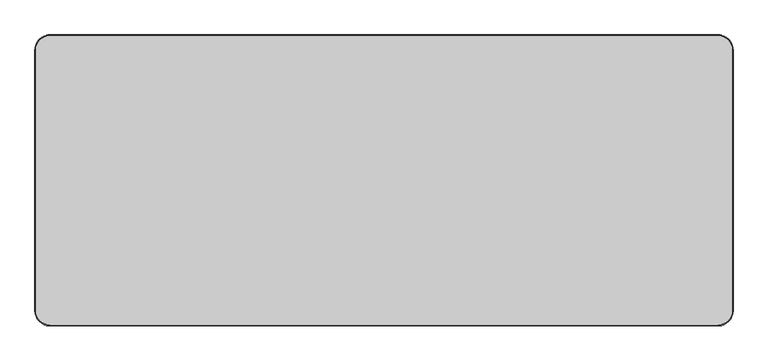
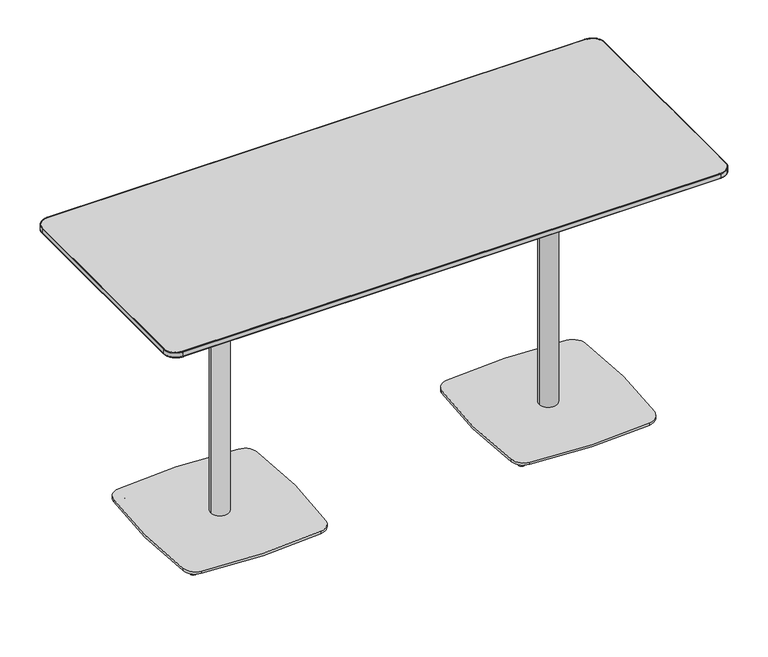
"""IFC4 building model written with IfcOpenShell, lengths in millimetres: furniture geometry, Coalesse_AM_Table_Occasional_Montara650Table_CafeHeight_Rectangular : Counter Height - 30D x 72W."""

from ifc_helpers import new_model, si_unit, point, frame, frame_2d, origin, place, context, project, spatial, polyline, circle_curve, ellipse_curve, trimmed, segment, composite_curve, outline, extrude, source, transform, mapped, element, save
from ifc_brep_helpers import plane_surface, cylinder_surface, revolved_surface, spline_surface, advanced_brep


def furniture_965f53b5(model_context):
    return source(origin(), model_context, "Body", "SolidModel", [
        advanced_brep(
        [(357.2373868, 0.0, 881.255027), (709.5626132, 0.0, 881.255027), (665.0004101, 0.0, 881.255027), (401.7995899, 0.0, 881.255027), (654.4488662, 0.0, 880.1460151), (412.3511338, 0.0, 880.1460151), (582.1461809, 0.0, 865.4837029), (484.6538191, 0.0, 865.4837029), (570.812985, 0.0, 865.4837029), (495.987015, 0.0, 865.4837029), (503.8504172, 0.0, 877.2852036), (562.9495828, 0.0, 877.2852036), (562.9495828, 0.0, 19.9999965), (503.8504172, 0.0, 19.9999965), (533.4, 0.0, 19.9999965), (533.4, 0.0, 884.430027), (709.5626132, 0.0, 884.430027), (357.2373868, 0.0, 884.430027), (566.7511087, 0.0, 866.9383874), (500.0488913, 0.0, 866.9383874), (565.112334, 0.0, 877.2852036), (501.687666, 0.0, 877.2852036)],
        [
            (0, 1, circle_curve(frame((533.4, 0.0, 881.255027), z_axis=(0.0, 0.0, -1.0), x_axis=(1.0, 0.0, 0.0)), 176.1626132)),
            (1, 2),
            (2, 3, circle_curve(frame((533.4, 0.0, 881.255027), z_axis=(0.0, 0.0, 1.0), x_axis=(1.0, 0.0, 0.0)), 131.6004101)),
            (3, 0),
            (1, 0, circle_curve(frame((533.4, 0.0, 881.255027), z_axis=(0.0, 0.0, -1.0), x_axis=(1.0, 0.0, 0.0)), 176.1626132)),
            (3, 2, circle_curve(frame((533.4, 0.0, 881.255027), z_axis=(0.0, 0.0, 1.0), x_axis=(1.0, 0.0, 0.0)), 131.6004101)),
            (2, 4),
            (4, 5, circle_curve(frame((533.4, 0.0, 880.1460151), z_axis=(0.0, 0.0, 1.0), x_axis=(1.0, 0.0, 0.0)), 121.0488662)),
            (5, 3),
            (5, 4, circle_curve(frame((533.4, 0.0, 880.1460151), z_axis=(0.0, 0.0, 1.0), x_axis=(1.0, 0.0, 0.0)), 121.0488662)),
            (4, 6),
            (6, 7, circle_curve(frame((533.4, 0.0, 865.4837029), z_axis=(0.0, 0.0, 1.0), x_axis=(1.0, 0.0, 0.0)), 48.7461809)),
            (7, 5),
            (7, 6, circle_curve(frame((533.4, 0.0, 865.4837029), z_axis=(0.0, 0.0, 1.0), x_axis=(1.0, 0.0, 0.0)), 48.7461809)),
            (6, 8),
            (8, 9, circle_curve(frame((533.4, 0.0, 865.4837029), z_axis=(0.0, 0.0, 1.0), x_axis=(1.0, 0.0, 0.0)), 37.412985)),
            (9, 7),
            (9, 8, circle_curve(frame((533.4, 0.0, 865.4837029), z_axis=(0.0, 0.0, 1.0), x_axis=(1.0, 0.0, 0.0)), 37.412985)),
            (10, 11, circle_curve(frame((533.4, 0.0, 877.2852036), z_axis=(0.0, 0.0, -1.0), x_axis=(1.0, 0.0, 0.0)), 29.5495828)),
            (11, 12),
            (12, 13, circle_curve(frame((533.4, 0.0, 19.9999965), z_axis=(0.0, 0.0, 1.0), x_axis=(1.0, 0.0, 0.0)), 29.5495828)),
            (13, 10),
            (11, 10, circle_curve(frame((533.4, 0.0, 877.2852036), z_axis=(0.0, 0.0, -1.0), x_axis=(1.0, 0.0, 0.0)), 29.5495828)),
            (13, 12, circle_curve(frame((533.4, 0.0, 19.9999965), z_axis=(0.0, 0.0, 1.0), x_axis=(1.0, 0.0, 0.0)), 29.5495828)),
            (12, 14),
            (14, 13),
            (15, 16),
            (16, 17, circle_curve(frame((533.4, 0.0, 884.430027), z_axis=(0.0, 0.0, 1.0), x_axis=(1.0, 0.0, 0.0)), 176.1626132)),
            (17, 15),
            (17, 16, circle_curve(frame((533.4, 0.0, 884.430027), z_axis=(0.0, 0.0, 1.0), x_axis=(1.0, 0.0, 0.0)), 176.1626132)),
            (16, 1),
            (0, 17),
            (8, 18),
            (18, 19, circle_curve(frame((533.4, 0.0, 866.9383874), z_axis=(0.0, 0.0, 1.0), x_axis=(1.0, 0.0, 0.0)), 33.3511087)),
            (19, 9),
            (19, 18, circle_curve(frame((533.4, 0.0, 866.9383874), z_axis=(0.0, 0.0, 1.0), x_axis=(1.0, 0.0, 0.0)), 33.3511087)),
            (18, 20),
            (20, 21, circle_curve(frame((533.4, 0.0, 877.2852036), z_axis=(0.0, 0.0, 1.0), x_axis=(1.0, 0.0, 0.0)), 31.712334)),
            (21, 19),
            (21, 20, circle_curve(frame((533.4, 0.0, 877.2852036), z_axis=(0.0, 0.0, 1.0), x_axis=(1.0, 0.0, 0.0)), 31.712334)),
            (20, 11),
            (10, 21),
        ],
        [
            plane_surface(frame((533.4, 0.0, 881.255027), z_axis=(0.0, 0.0, -1.0), x_axis=(1.0, 0.0, 0.0))),
            revolved_surface(polyline([(654.4488662, 0.0, 880.1460151), (665.0004101, 0.0, 881.255027)]), (533.4, 0.0, 756.5999965), (0.0, 0.0, 1.0)),
            revolved_surface(polyline([(582.1461809, 0.0, 865.4837029), (654.4488662, 0.0, 880.1460151)]), (533.4, 0.0, 756.5999965), (0.0, 0.0, 1.0)),
            plane_surface(frame((533.4, 0.0, 865.4837029), z_axis=(0.0, 0.0, -1.0), x_axis=(1.0, 0.0, 0.0))),
            cylinder_surface(frame((533.4, 0.0, 756.5999965), z_axis=(0.0, 0.0, 1.0), x_axis=(1.0, 0.0, 0.0)), 29.5495828),
            plane_surface(frame((533.4, 0.0, 19.9999965), z_axis=(0.0, 0.0, -1.0), x_axis=(1.0, 0.0, 0.0))),
            plane_surface(frame((533.4, 0.0, 884.430027), z_axis=(0.0, 0.0, 1.0), x_axis=(1.0, 0.0, 0.0))),
            cylinder_surface(frame((533.4, 0.0, 756.5999965), z_axis=(0.0, 0.0, 1.0), x_axis=(1.0, 0.0, 0.0)), 176.1626132),
            revolved_surface(polyline([(566.7511087, 0.0, 866.9383874), (570.812985, 0.0, 865.4837029)]), (533.4, 0.0, 756.5999965), (0.0, 0.0, 1.0)),
            revolved_surface(polyline([(565.112334, 0.0, 877.2852036), (566.7511087, 0.0, 866.9383874)]), (533.4, 0.0, 756.5999965), (0.0, 0.0, 1.0)),
            plane_surface(frame((533.4, 0.0, 877.2852036), z_axis=(0.0, 0.0, -1.0), x_axis=(1.0, 0.0, 0.0))),
        ],
        [
            (0, [[1, 2, 3, 4]]),
            (0, [[5, -4, 6, -2]]),
            (1, [[-3, 7, 8, 9]]),
            (1, [[-6, -9, 10, -7]]),
            (2, [[-8, 11, 12, 13]]),
            (2, [[-10, -13, 14, -11]]),
            (3, [[-12, 15, 16, 17]]),
            (3, [[-14, -17, 18, -15]]),
            (4, [[19, 20, 21, 22]]),
            (4, [[23, -22, 24, -20]]),
            (5, [[-21, 25, 26]]),
            (5, [[-24, -26, -25]]),
            (6, [[27, 28, 29]]),
            (6, [[-29, 30, -27]]),
            (7, [[-28, 31, -1, 32]]),
            (7, [[-30, -32, -5, -31]]),
            (8, [[-16, 33, 34, 35]]),
            (8, [[-18, -35, 36, -33]]),
            (9, [[-34, 37, 38, 39]]),
            (9, [[-36, -39, 40, -37]]),
            (10, [[-38, 41, -19, 42]]),
            (10, [[-40, -42, -23, -41]]),
        ],
    ),
        advanced_brep(
        [(749.0044343, 204.892028, 0.0), (728.3026873, 204.892028, 0.0), (753.1315608, 204.892028, 11.9999882), (724.1755608, 204.892028, 11.9999882)],
        [
            (0, 1, circle_curve(frame((738.6535608, 204.892028, 0.0), z_axis=(0.0, 0.0, -1.0), x_axis=(1.0, 0.0, 0.0)), 10.3508735)),
            (1, 0, circle_curve(frame((738.6535608, 204.892028, 0.0), z_axis=(0.0, 0.0, -1.0), x_axis=(-1.0, 0.0, 0.0)), 10.3508735)),
            (2, 3, circle_curve(frame((738.6535608, 204.892028, 11.9999882), z_axis=(0.0, 0.0, 1.0), x_axis=(-1.0, 0.0, 0.0)), 14.478)),
            (3, 2, circle_curve(frame((738.6535608, 204.892028, 11.9999882), z_axis=(0.0, 0.0, 1.0), x_axis=(1.0, 0.0, 0.0)), 14.478)),
            (3, 1),
            (0, 2),
        ],
        [
            plane_surface(frame((738.6535608, 204.892028, 0.0), z_axis=(0.0, 0.0, -1.0), x_axis=(0.0, 1.0, 0.0))),
            plane_surface(frame((738.6535608, 204.892028, 11.9999882), z_axis=(0.0, 0.0, 1.0), x_axis=(0.0, 1.0, 0.0))),
            revolved_surface(polyline([(749.0044342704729, 204.892028, 0.0), (753.1315608, 204.892028, 11.999988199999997)]), (738.6535608, 204.892028, -30.0960871), (0.0, 0.0, 1.0)),
            revolved_surface(polyline([(728.3026873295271, 204.892028, 0.0), (724.1755608, 204.892028, 11.999988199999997)]), (738.6535608, 204.892028, -30.0960871), (0.0, 0.0, 1.0)),
        ],
        [
            (0, [[1, 2]]),
            (1, [[3, 4]]),
            (2, [[-4, 5, -1, 6]]),
            (3, [[-3, -6, -2, -5]]),
        ],
    ),
        advanced_brep(
        [(749.0044343, -204.892028, 0.0), (728.3026873, -204.892028, 0.0), (753.1315608, -204.892028, 11.9999882), (724.1755608, -204.892028, 11.9999882)],
        [
            (0, 1, circle_curve(frame((738.6535608, -204.892028, 0.0), z_axis=(0.0, 0.0, -1.0), x_axis=(1.0, 0.0, 0.0)), 10.3508735)),
            (1, 0, circle_curve(frame((738.6535608, -204.892028, 0.0), z_axis=(0.0, 0.0, -1.0), x_axis=(-1.0, 0.0, 0.0)), 10.3508735)),
            (2, 3, circle_curve(frame((738.6535608, -204.892028, 11.9999882), z_axis=(0.0, 0.0, 1.0), x_axis=(-1.0, 0.0, 0.0)), 14.478)),
            (3, 2, circle_curve(frame((738.6535608, -204.892028, 11.9999882), z_axis=(0.0, 0.0, 1.0), x_axis=(1.0, 0.0, 0.0)), 14.478)),
            (2, 0),
            (1, 3),
        ],
        [
            plane_surface(frame((738.6535608, -204.892028, 0.0), z_axis=(0.0, 0.0, -1.0), x_axis=(0.0, 1.0, 0.0))),
            plane_surface(frame((738.6535608, -204.892028, 11.9999882), z_axis=(0.0, 0.0, 1.0), x_axis=(0.0, 1.0, 0.0))),
            revolved_surface(polyline([(728.3026873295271, -204.892028, 0.0), (724.1755608, -204.892028, 11.999988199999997)]), (738.6535608, -204.892028, -30.0960871), (0.0, 0.0, 1.0)),
            revolved_surface(polyline([(749.0044342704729, -204.892028, 0.0), (753.1315608, -204.892028, 11.999988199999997)]), (738.6535608, -204.892028, -30.0960871), (0.0, 0.0, 1.0)),
        ],
        [
            (0, [[1, 2]]),
            (1, [[3, 4]]),
            (2, [[-3, 5, -2, 6]]),
            (3, [[-4, -6, -1, -5]]),
        ],
    ),
        advanced_brep(
        [(317.7955657, 204.892028, 0.0), (338.4973127, 204.892028, 0.0), (313.6684392, 204.892028, 11.9999882), (342.6244392, 204.892028, 11.9999882)],
        [
            (0, 1, circle_curve(frame((328.1464392, 204.892028, 0.0), z_axis=(0.0, 0.0, -1.0), x_axis=(-1.0, 0.0, 0.0)), 10.3508735)),
            (1, 0, circle_curve(frame((328.1464392, 204.892028, 0.0), z_axis=(0.0, 0.0, -1.0), x_axis=(1.0, 0.0, 0.0)), 10.3508735)),
            (2, 3, circle_curve(frame((328.1464392, 204.892028, 11.9999882), z_axis=(0.0, 0.0, 1.0), x_axis=(1.0, 0.0, 0.0)), 14.478)),
            (3, 2, circle_curve(frame((328.1464392, 204.892028, 11.9999882), z_axis=(0.0, 0.0, 1.0), x_axis=(-1.0, 0.0, 0.0)), 14.478)),
            (2, 0),
            (1, 3),
        ],
        [
            plane_surface(frame((328.1464392, 204.892028, 0.0), z_axis=(0.0, 0.0, -1.0), x_axis=(0.0, -1.0, 0.0))),
            plane_surface(frame((328.1464392, 204.892028, 11.9999882), z_axis=(0.0, 0.0, 1.0), x_axis=(0.0, -1.0, 0.0))),
            revolved_surface(polyline([(338.49731267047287, 204.892028, 0.0), (342.6244392, 204.892028, 11.999988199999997)]), (328.1464392, 204.892028, -30.0960871), (0.0, 0.0, 1.0)),
            revolved_surface(polyline([(317.7955657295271, 204.892028, 0.0), (313.6684392, 204.892028, 11.999988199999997)]), (328.1464392, 204.892028, -30.0960871), (0.0, 0.0, 1.0)),
        ],
        [
            (0, [[1, 2]]),
            (1, [[3, 4]]),
            (2, [[-3, 5, -2, 6]]),
            (3, [[-4, -6, -1, -5]]),
        ],
    ),
        advanced_brep(
        [(317.7955657, -204.892028, 0.0), (338.4973127, -204.892028, 0.0), (313.6684392, -204.892028, 11.9999882), (342.6244392, -204.892028, 11.9999882)],
        [
            (0, 1, circle_curve(frame((328.1464392, -204.892028, 0.0), z_axis=(0.0, 0.0, -1.0), x_axis=(-1.0, 0.0, 0.0)), 10.3508735)),
            (1, 0, circle_curve(frame((328.1464392, -204.892028, 0.0), z_axis=(0.0, 0.0, -1.0), x_axis=(1.0, 0.0, 0.0)), 10.3508735)),
            (2, 3, circle_curve(frame((328.1464392, -204.892028, 11.9999882), z_axis=(0.0, 0.0, 1.0), x_axis=(1.0, 0.0, 0.0)), 14.478)),
            (3, 2, circle_curve(frame((328.1464392, -204.892028, 11.9999882), z_axis=(0.0, 0.0, 1.0), x_axis=(-1.0, 0.0, 0.0)), 14.478)),
            (3, 1),
            (0, 2),
        ],
        [
            plane_surface(frame((328.1464392, -204.892028, 0.0), z_axis=(0.0, 0.0, -1.0), x_axis=(0.0, -1.0, 0.0))),
            plane_surface(frame((328.1464392, -204.892028, 11.9999882), z_axis=(0.0, 0.0, 1.0), x_axis=(0.0, -1.0, 0.0))),
            revolved_surface(polyline([(317.7955657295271, -204.892028, 0.0), (313.6684392, -204.892028, 11.999988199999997)]), (328.1464392, -204.892028, -30.0960871), (0.0, 0.0, 1.0)),
            revolved_surface(polyline([(338.49731267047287, -204.892028, 0.0), (342.6244392, -204.892028, 11.999988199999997)]), (328.1464392, -204.892028, -30.0960871), (0.0, 0.0, 1.0)),
        ],
        [
            (0, [[1, 2]]),
            (1, [[3, 4]]),
            (2, [[-4, 5, -1, 6]]),
            (3, [[-3, -6, -2, -5]]),
        ],
    ),
        extrude(outline(composite_curve([segment(trimmed(circle_curve(frame_2d((534.6702107, -1459.4269529)), 1703.8365498), [point((338.9758413, 233.1340363))], [point((727.7022914, 233.4397294))], False, "CARTESIAN"), True, "CONTINUOUS"), segment(trimmed(circle_curve(frame_2d((722.6664351, 189.2759133)), 44.45), [point((727.7022914, 233.4397294))], [point((766.8410299, 194.2163254))], False, "CARTESIAN"), True, "CONTINUOUS"), segment(trimmed(circle_curve(frame_2d((-969.7397991, 5.89e-05)), 1747.4074894), [point((766.8410299, 194.2163254))], [point((766.838325, -194.2403925))], False, "CARTESIAN"), True, "CONTINUOUS"), segment(trimmed(circle_curve(frame_2d((722.663799, -189.2993652)), 44.45), [point((766.838325, -194.2403925))], [point((727.977927, -233.4305622))], False, "CARTESIAN"), True, "CONTINUOUS"), segment(trimmed(circle_curve(frame_2d((537.7367152, 1346.4283112)), 1591.2717488), [point((727.977927, -233.4305622))], [point((339.4996689, -232.4471911))], False, "CARTESIAN"), True, "CONTINUOUS"), segment(trimmed(circle_curve(frame_2d((345.0371496, -188.3434633)), 44.45), [point((339.4996689, -232.4471911))], [point((300.9116252, -193.704489))], False, "CARTESIAN"), True, "CONTINUOUS"), segment(trimmed(circle_curve(frame_2d((1930.9488879, 4.3367087)), 1642.0236885), [point((300.9116252, -193.704489))], [point((299.9290283, 194.115557))], False, "CARTESIAN"), True, "CONTINUOUS"), segment(trimmed(circle_curve(frame_2d((344.0811518, 188.9781952)), 44.45), [point((299.9290283, 194.115557))], [point((338.9758413, 233.1340363))], False, "CARTESIAN"), True, "CONTINUOUS")], self_intersect=False)), frame((0.0, 0.0, 11.999986), z_axis=(0.0, 0.0, 1.0), x_axis=(1.0, 0.0, 0.0)), (0.0, 0.0, 1.0), 8.0000105),
        advanced_brep(
        [(-738.6535608, 215.2429015, 0.0), (-738.6535608, 194.5411546, 0.0), (-738.6535608, 219.370028, 11.9999882), (-738.6535608, 190.414028, 11.9999882)],
        [
            (0, 1, circle_curve(frame((-738.6535608, 204.892028, 0.0), z_axis=(0.0, 0.0, -1.0), x_axis=(0.0, 1.0, 0.0)), 10.3508735)),
            (1, 0, circle_curve(frame((-738.6535608, 204.892028, 0.0), z_axis=(0.0, 0.0, -1.0), x_axis=(0.0, -1.0, 0.0)), 10.3508735)),
            (2, 3, circle_curve(frame((-738.6535608, 204.892028, 11.9999882), z_axis=(0.0, 0.0, 1.0), x_axis=(0.0, -1.0, 0.0)), 14.478)),
            (3, 2, circle_curve(frame((-738.6535608, 204.892028, 11.9999882), z_axis=(0.0, 0.0, 1.0), x_axis=(0.0, 1.0, 0.0)), 14.478)),
            (2, 0),
            (1, 3),
        ],
        [
            plane_surface(frame((-738.6535608, 204.892028, 0.0), z_axis=(0.0, 0.0, -1.0), x_axis=(-1.0, 0.0, 0.0))),
            plane_surface(frame((-738.6535608, 204.892028, 11.9999882), z_axis=(0.0, 0.0, 1.0), x_axis=(-1.0, 0.0, 0.0))),
            revolved_surface(polyline([(-738.6535608, 194.5411545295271, 0.0), (-738.6535608, 190.414028, 11.999988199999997)]), (-738.6535608, 204.892028, -30.0960871), (0.0, 0.0, 1.0)),
            revolved_surface(polyline([(-738.6535608, 215.2429014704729, 0.0), (-738.6535608, 219.370028, 11.999988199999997)]), (-738.6535608, 204.892028, -30.0960871), (0.0, 0.0, 1.0)),
        ],
        [
            (0, [[1, 2]]),
            (1, [[3, 4]]),
            (2, [[-3, 5, -2, 6]]),
            (3, [[-4, -6, -1, -5]]),
        ],
    ),
        advanced_brep(
        [(-738.6535608, -194.5411546, 0.0), (-738.6535608, -215.2429015, 0.0), (-738.6535608, -190.414028, 11.9999882), (-738.6535608, -219.370028, 11.9999882)],
        [
            (0, 1, circle_curve(frame((-738.6535608, -204.892028, 0.0), z_axis=(0.0, 0.0, -1.0), x_axis=(0.0, 1.0, 0.0)), 10.3508735)),
            (1, 0, circle_curve(frame((-738.6535608, -204.892028, 0.0), z_axis=(0.0, 0.0, -1.0), x_axis=(0.0, -1.0, 0.0)), 10.3508735)),
            (2, 3, circle_curve(frame((-738.6535608, -204.892028, 11.9999882), z_axis=(0.0, 0.0, 1.0), x_axis=(0.0, -1.0, 0.0)), 14.478)),
            (3, 2, circle_curve(frame((-738.6535608, -204.892028, 11.9999882), z_axis=(0.0, 0.0, 1.0), x_axis=(0.0, 1.0, 0.0)), 14.478)),
            (3, 1),
            (0, 2),
        ],
        [
            plane_surface(frame((-738.6535608, -204.892028, 0.0), z_axis=(0.0, 0.0, -1.0), x_axis=(-1.0, 0.0, 0.0))),
            plane_surface(frame((-738.6535608, -204.892028, 11.9999882), z_axis=(0.0, 0.0, 1.0), x_axis=(-1.0, 0.0, 0.0))),
            revolved_surface(polyline([(-738.6535608, -194.5411545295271, 0.0), (-738.6535608, -190.414028, 11.999988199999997)]), (-738.6535608, -204.892028, -30.0960871), (0.0, 0.0, 1.0)),
            revolved_surface(polyline([(-738.6535608, -215.2429014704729, 0.0), (-738.6535608, -219.370028, 11.999988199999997)]), (-738.6535608, -204.892028, -30.0960871), (0.0, 0.0, 1.0)),
        ],
        [
            (0, [[1, 2]]),
            (1, [[3, 4]]),
            (2, [[-4, 5, -1, 6]]),
            (3, [[-3, -6, -2, -5]]),
        ],
    ),
        advanced_brep(
        [(-328.1464392, 194.5411546, 0.0), (-328.1464392, 215.2429015, 0.0), (-328.1464392, 190.414028, 11.9999882), (-328.1464392, 219.370028, 11.9999882)],
        [
            (0, 1, circle_curve(frame((-328.1464392, 204.892028, 0.0), z_axis=(0.0, 0.0, -1.0), x_axis=(0.0, -1.0, 0.0)), 10.3508735)),
            (1, 0, circle_curve(frame((-328.1464392, 204.892028, 0.0), z_axis=(0.0, 0.0, -1.0), x_axis=(0.0, 1.0, 0.0)), 10.3508735)),
            (2, 3, circle_curve(frame((-328.1464392, 204.892028, 11.9999882), z_axis=(0.0, 0.0, 1.0), x_axis=(0.0, 1.0, 0.0)), 14.478)),
            (3, 2, circle_curve(frame((-328.1464392, 204.892028, 11.9999882), z_axis=(0.0, 0.0, 1.0), x_axis=(0.0, -1.0, 0.0)), 14.478)),
            (3, 1),
            (0, 2),
        ],
        [
            plane_surface(frame((-328.1464392, 204.892028, 0.0), z_axis=(0.0, 0.0, -1.0), x_axis=(1.0, 0.0, 0.0))),
            plane_surface(frame((-328.1464392, 204.892028, 11.9999882), z_axis=(0.0, 0.0, 1.0), x_axis=(1.0, 0.0, 0.0))),
            revolved_surface(polyline([(-328.1464392, 194.5411545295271, 0.0), (-328.1464392, 190.414028, 11.999988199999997)]), (-328.1464392, 204.892028, -30.0960871), (0.0, 0.0, 1.0)),
            revolved_surface(polyline([(-328.1464392, 215.2429014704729, 0.0), (-328.1464392, 219.370028, 11.999988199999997)]), (-328.1464392, 204.892028, -30.0960871), (0.0, 0.0, 1.0)),
        ],
        [
            (0, [[1, 2]]),
            (1, [[3, 4]]),
            (2, [[-4, 5, -1, 6]]),
            (3, [[-3, -6, -2, -5]]),
        ],
    ),
        advanced_brep(
        [(-328.1464392, -215.2429015, 0.0), (-328.1464392, -194.5411546, 0.0), (-328.1464392, -219.370028, 11.9999882), (-328.1464392, -190.414028, 11.9999882)],
        [
            (0, 1, circle_curve(frame((-328.1464392, -204.892028, 0.0), z_axis=(0.0, 0.0, -1.0), x_axis=(0.0, -1.0, 0.0)), 10.3508735)),
            (1, 0, circle_curve(frame((-328.1464392, -204.892028, 0.0), z_axis=(0.0, 0.0, -1.0), x_axis=(0.0, 1.0, 0.0)), 10.3508735)),
            (2, 3, circle_curve(frame((-328.1464392, -204.892028, 11.9999882), z_axis=(0.0, 0.0, 1.0), x_axis=(0.0, 1.0, 0.0)), 14.478)),
            (3, 2, circle_curve(frame((-328.1464392, -204.892028, 11.9999882), z_axis=(0.0, 0.0, 1.0), x_axis=(0.0, -1.0, 0.0)), 14.478)),
            (2, 0),
            (1, 3),
        ],
        [
            plane_surface(frame((-328.1464392, -204.892028, 0.0), z_axis=(0.0, 0.0, -1.0), x_axis=(1.0, 0.0, 0.0))),
            plane_surface(frame((-328.1464392, -204.892028, 11.9999882), z_axis=(0.0, 0.0, 1.0), x_axis=(1.0, 0.0, 0.0))),
            revolved_surface(polyline([(-328.1464392, -194.5411545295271, 0.0), (-328.1464392, -190.414028, 11.999988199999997)]), (-328.1464392, -204.892028, -30.0960871), (0.0, 0.0, 1.0)),
            revolved_surface(polyline([(-328.1464392, -215.2429014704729, 0.0), (-328.1464392, -219.370028, 11.999988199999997)]), (-328.1464392, -204.892028, -30.0960871), (0.0, 0.0, 1.0)),
        ],
        [
            (0, [[1, 2]]),
            (1, [[3, 4]]),
            (2, [[-3, 5, -2, 6]]),
            (3, [[-4, -6, -1, -5]]),
        ],
    ),
        extrude(outline(composite_curve([segment(trimmed(circle_curve(frame_2d((-344.0811518, 188.9781952)), 44.45), [point((-338.9758413, 233.1340363))], [point((-299.9290283, 194.115557))], False, "CARTESIAN"), True, "CONTINUOUS"), segment(trimmed(circle_curve(frame_2d((-1930.9488879, 4.3367087)), 1642.0236885), [point((-299.9290283, 194.115557))], [point((-300.9116252, -193.704489))], False, "CARTESIAN"), True, "CONTINUOUS"), segment(trimmed(circle_curve(frame_2d((-345.0371496, -188.3434633)), 44.45), [point((-300.9116252, -193.704489))], [point((-339.4996689, -232.4471911))], False, "CARTESIAN"), True, "CONTINUOUS"), segment(trimmed(circle_curve(frame_2d((-537.7367152, 1346.4283112)), 1591.2717488), [point((-339.4996689, -232.4471911))], [point((-727.977927, -233.4305622))], False, "CARTESIAN"), True, "CONTINUOUS"), segment(trimmed(circle_curve(frame_2d((-722.663799, -189.2993652)), 44.45), [point((-727.977927, -233.4305622))], [point((-766.838325, -194.2403925))], False, "CARTESIAN"), True, "CONTINUOUS"), segment(trimmed(circle_curve(frame_2d((969.7397991, 5.89e-05)), 1747.4074894), [point((-766.838325, -194.2403925))], [point((-766.8410299, 194.2163254))], False, "CARTESIAN"), True, "CONTINUOUS"), segment(trimmed(circle_curve(frame_2d((-722.6664351, 189.2759133)), 44.45), [point((-766.8410299, 194.2163254))], [point((-727.7022914, 233.4397294))], False, "CARTESIAN"), True, "CONTINUOUS"), segment(trimmed(circle_curve(frame_2d((-534.6702107, -1459.4269529)), 1703.8365498), [point((-727.7022914, 233.4397294))], [point((-338.9758413, 233.1340363))], False, "CARTESIAN"), True, "CONTINUOUS")], self_intersect=False)), frame((0.0, 0.0, 11.999986), z_axis=(0.0, 0.0, 1.0), x_axis=(1.0, 0.0, 0.0)), (0.0, 0.0, 1.0), 8.0000105),
        advanced_brep(
        [(849.4626362, 316.0635082, 884.430027), (849.4626362, -316.0635082, 884.430027), (-849.4626362, -316.0635082, 884.430027), (-849.4626362, 316.0635082, 884.430027), (874.188625, 378.968, 896.695891), (-874.188625, 378.968, 896.695891), (-912.288625, 340.868, 896.695891), (-912.288625, -340.868, 896.695891), (-874.188625, -378.968, 896.695891), (874.188625, -378.968, 896.695891), (912.288625, -340.868, 896.695891), (912.288625, 340.868, 896.695891)],
        [
            (0, 1),
            (1, 2),
            (2, 3),
            (3, 0),
            (4, 5),
            (5, 6, circle_curve(frame((-874.188625, 340.868, 896.695891), z_axis=(0.0, 0.0, 1.0), x_axis=(1.0, 0.0, 0.0)), 38.1)),
            (6, 7),
            (7, 8, circle_curve(frame((-874.188625, -340.868, 896.695891), z_axis=(0.0, 0.0, 1.0), x_axis=(1.0, 0.0, 0.0)), 38.1)),
            (8, 9),
            (9, 10, circle_curve(frame((874.188625, -340.868, 896.695891), z_axis=(0.0, 0.0, 1.0), x_axis=(1.0, 0.0, 0.0)), 38.1)),
            (10, 11),
            (11, 4, circle_curve(frame((874.188625, 340.868, 896.695891), z_axis=(0.0, 0.0, 1.0), x_axis=(1.0, 0.0, 0.0)), 38.1)),
            (11, 0),
            (0, 4),
            (10, 1),
            (9, 1),
            (8, 2),
            (7, 2),
            (6, 3),
            (5, 3),
        ],
        [
            plane_surface(frame((0.0, 0.0, 884.430027), z_axis=(0.0, 0.0, -1.0), x_axis=(-1.0, 0.0, 0.0))),
            plane_surface(frame((0.0, 0.0, 896.695891), z_axis=(0.0, 0.0, 1.0), x_axis=(-1.0, 0.0, 0.0))),
            spline_surface(2, 1, [[(874.188625, 378.968, 896.695891), (849.4626362, 316.0635082, 884.430027)], [(912.288625, 378.968, 896.695891), (849.4626362, 316.0635082, 884.430027)], [(912.288625, 340.868, 896.695891), (849.4626362, 316.0635082, 884.430027)]], [3, 3], [2, 2], [0.0, 1.0], [0.0, 1.0], weights=[[1.0, 1.0], [0.7071067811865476, 0.7071067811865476], [1.0, 1.0]]),
            plane_surface(frame((912.288625, 0.0, 896.695891), z_axis=(0.19161772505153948, 0.0, -0.9814696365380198), x_axis=(0.0, -1.0, 0.0))),
            spline_surface(2, 1, [[(912.288625, -340.868, 896.695891), (849.4626362, -316.0635082, 884.430027)], [(912.288625, -378.968, 896.695891), (849.4626362, -316.0635082, 884.430027)], [(874.188625, -378.968, 896.695891), (849.4626362, -316.0635082, 884.430027)]], [3, 3], [2, 2], [0.0, 1.0], [0.0, 1.0], weights=[[1.0, 1.0], [0.7071067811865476, 0.7071067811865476], [1.0, 1.0]]),
            plane_surface(frame((0.0, -378.968, 896.695891), z_axis=(0.0, -0.1913873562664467, -0.9815145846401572), x_axis=(-1.0, 0.0, 0.0))),
            spline_surface(2, 1, [[(-874.188625, -378.968, 896.695891), (-849.4626362, -316.0635082, 884.430027)], [(-912.288625, -378.968, 896.695891), (-849.4626362, -316.0635082, 884.430027)], [(-912.288625, -340.868, 896.695891), (-849.4626362, -316.0635082, 884.430027)]], [3, 3], [2, 2], [0.0, 1.0], [0.0, 1.0], weights=[[1.0, 1.0], [0.7071067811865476, 0.7071067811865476], [1.0, 1.0]]),
            plane_surface(frame((-912.288625, 0.0, 896.695891), z_axis=(-0.19161772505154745, 0.0, -0.9814696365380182), x_axis=(0.0, 1.0, 0.0))),
            spline_surface(2, 1, [[(-912.288625, 340.868, 896.695891), (-849.4626362, 316.0635082, 884.430027)], [(-912.288625, 378.968, 896.695891), (-849.4626362, 316.0635082, 884.430027)], [(-874.188625, 378.968, 896.695891), (-849.4626362, 316.0635082, 884.430027)]], [3, 3], [2, 2], [0.0, 1.0], [0.0, 1.0], weights=[[1.0, 1.0], [0.7071067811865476, 0.7071067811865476], [1.0, 1.0]]),
            plane_surface(frame((0.0, 378.968, 896.695891), z_axis=(0.0, 0.19138735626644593, -0.9815145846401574), x_axis=(1.0, 0.0, 0.0))),
        ],
        [
            (0, [[1, 2, 3, 4]]),
            (1, [[5, 6, 7, 8, 9, 10, 11, 12]]),
            (2, [[-12, 13, 14]]),
            (3, [[-11, 15, -1, -13]]),
            (4, [[-10, 16, -15]]),
            (5, [[-9, 17, -2, -16]]),
            (6, [[-8, 18, -17]]),
            (7, [[-7, 19, -3, -18]]),
            (8, [[-6, 20, -19]]),
            (9, [[-5, -14, -4, -20]]),
        ],
    ),
        extrude(outline(composite_curve([segment(trimmed(circle_curve(frame_2d((874.188625, 340.868)), 38.1), [point((874.188625, 378.968))], [point((912.288625, 340.868))], False, "CARTESIAN"), True, "CONTINUOUS"), segment(polyline([(912.288625, 340.868), (912.288625, -340.868)]), True, "CONTINUOUS"), segment(trimmed(circle_curve(frame_2d((874.188625, -340.868)), 38.1), [point((912.288625, -340.868))], [point((874.188625, -378.968))], False, "CARTESIAN"), True, "CONTINUOUS"), segment(polyline([(874.188625, -378.968), (-874.188625, -378.968)]), True, "CONTINUOUS"), segment(trimmed(circle_curve(frame_2d((-874.188625, -340.868)), 38.1), [point((-874.188625, -378.968))], [point((-912.288625, -340.868))], False, "CARTESIAN"), True, "CONTINUOUS"), segment(polyline([(-912.288625, -340.868), (-912.288625, 340.868)]), True, "CONTINUOUS"), segment(trimmed(circle_curve(frame_2d((-874.188625, 340.868)), 38.1), [point((-912.288625, 340.868))], [point((-874.188625, 378.968))], False, "CARTESIAN"), True, "CONTINUOUS"), segment(polyline([(-874.188625, 378.968), (874.188625, 378.968)]), True, "CONTINUOUS")], self_intersect=False)), frame((0.0, 0.0, 896.695891), z_axis=(0.0, 0.0, 1.0), x_axis=(1.0, 0.0, 0.0)), (0.0, 0.0, 1.0), 17.704109),
        advanced_brep(
        [(-914.3644915, 340.868, 898.6278467), (-874.188625, 381.0438665, 898.6278467), (-874.188625, 378.968, 896.695891), (-912.288625, 340.868, 896.695891), (-914.3644915, 340.868, 912.3999283), (-874.188625, 381.0438665, 912.3999283), (-912.288625, 340.868, 914.4), (-874.188625, 378.968, 914.4), (-912.288625, -340.868, 896.695891), (-914.3644915, -340.868, 898.6278467), (-914.3644915, -340.868, 912.3999283), (-912.288625, -340.868, 914.4), (-874.188625, -381.0438665, 898.6278467), (-874.188625, -378.968, 896.695891), (-874.188625, -381.0438665, 912.3999283), (-874.188625, -378.968, 914.4), (874.188625, -378.968, 896.695891), (874.188625, -381.0438665, 898.6278467), (874.188625, -381.0438665, 912.3999283), (874.188625, -378.968, 914.4), (914.3644915, -340.868, 898.6278467), (912.288625, -340.868, 896.695891), (914.3644915, -340.868, 912.3999283), (912.288625, -340.868, 914.4), (912.288625, 340.868, 896.695891), (914.3644915, 340.868, 898.6278467), (914.3644915, 340.868, 912.3999283), (912.288625, 340.868, 914.4), (874.188625, 381.0438665, 898.6278467), (874.188625, 378.968, 896.695891), (874.188625, 381.0438665, 912.3999283), (874.188625, 378.968, 914.4)],
        [
            (0, 1, circle_curve(frame((-874.188625, 340.868, 898.6278467), z_axis=(0.0, 0.0, -1.0), x_axis=(0.0, 1.0, 0.0)), 40.1758665)),
            (1, 2, circle_curve(frame((-874.188625, 379.1069224, 898.6278467), z_axis=(-1.0, 0.0, 0.0), x_axis=(0.0, -1.0, 0.0)), 1.9369441)),
            (2, 3, circle_curve(frame((-874.188625, 340.868, 896.695891), z_axis=(0.0, 0.0, 1.0), x_axis=(0.0, 1.0, 0.0)), 38.1)),
            (3, 0, circle_curve(frame((-912.4275474, 340.868, 898.6278467), z_axis=(0.0, 1.0, 0.0), x_axis=(1.0, 0.0, 0.0)), 1.9369441)),
            (4, 5, circle_curve(frame((-874.188625, 340.868, 912.3999283), z_axis=(0.0, 0.0, -1.0), x_axis=(0.0, 1.0, 0.0)), 40.1758665)),
            (5, 1),
            (0, 4),
            (6, 7, circle_curve(frame((-874.188625, 340.868, 914.4), z_axis=(0.0, 0.0, -1.0), x_axis=(0.0, 1.0, 0.0)), 38.1)),
            (7, 5, circle_curve(frame((-874.188625, 379.0424111, 912.3999283), z_axis=(-1.0, 0.0, 0.0), x_axis=(0.0, -1.0, 0.0)), 2.0014554)),
            (4, 6, circle_curve(frame((-912.3630361, 340.868, 912.3999283), z_axis=(0.0, 1.0, 0.0), x_axis=(1.0, 0.0, 0.0)), 2.0014554)),
            (2, 7),
            (6, 3),
            (3, 8),
            (8, 9, circle_curve(frame((-912.4275474, -340.868, 898.6278467), z_axis=(0.0, 1.0, 0.0), x_axis=(1.0, 0.0, 0.0)), 1.9369441)),
            (9, 0),
            (9, 10),
            (10, 4),
            (10, 11, circle_curve(frame((-912.3630361, -340.868, 912.3999283), z_axis=(0.0, 1.0, 0.0), x_axis=(1.0, 0.0, 0.0)), 2.0014554)),
            (11, 6),
            (11, 8),
            (12, 9, circle_curve(frame((-874.188625, -340.868, 898.6278467), z_axis=(0.0, 0.0, -1.0), x_axis=(-1.0, 0.0, 0.0)), 40.1758665)),
            (8, 13, circle_curve(frame((-874.188625, -340.868, 896.695891), z_axis=(0.0, 0.0, 1.0), x_axis=(-1.0, 0.0, 0.0)), 38.1)),
            (13, 12, circle_curve(frame((-874.188625, -379.1069224, 898.6278467), z_axis=(-1.0, 0.0, 0.0), x_axis=(0.0, 1.0, 0.0)), 1.9369441)),
            (14, 10, circle_curve(frame((-874.188625, -340.868, 912.3999283), z_axis=(0.0, 0.0, -1.0), x_axis=(-1.0, 0.0, 0.0)), 40.1758665)),
            (12, 14),
            (15, 11, circle_curve(frame((-874.188625, -340.868, 914.4), z_axis=(0.0, 0.0, -1.0), x_axis=(-1.0, 0.0, 0.0)), 38.1)),
            (14, 15, circle_curve(frame((-874.188625, -379.0424111, 912.3999283), z_axis=(-1.0, 0.0, 0.0), x_axis=(0.0, 1.0, 0.0)), 2.0014554)),
            (15, 13),
            (13, 16),
            (16, 17, circle_curve(frame((874.188625, -379.1069224, 898.6278467), z_axis=(-1.0, 0.0, 0.0), x_axis=(0.0, 1.0, 0.0)), 1.9369441)),
            (17, 12),
            (17, 18),
            (18, 14),
            (18, 19, circle_curve(frame((874.188625, -379.0424111, 912.3999283), z_axis=(-1.0, 0.0, 0.0), x_axis=(0.0, 1.0, 0.0)), 2.0014554)),
            (19, 15),
            (19, 16),
            (20, 17, circle_curve(frame((874.188625, -340.868, 898.6278467), z_axis=(0.0, 0.0, -1.0), x_axis=(0.0, -1.0, 0.0)), 40.1758665)),
            (16, 21, circle_curve(frame((874.188625, -340.868, 896.695891), z_axis=(0.0, 0.0, 1.0), x_axis=(0.0, -1.0, 0.0)), 38.1)),
            (21, 20, circle_curve(frame((912.4275474, -340.868, 898.6278467), z_axis=(0.0, -1.0, 0.0), x_axis=(-1.0, 0.0, 0.0)), 1.9369441)),
            (22, 18, circle_curve(frame((874.188625, -340.868, 912.3999283), z_axis=(0.0, 0.0, -1.0), x_axis=(0.0, -1.0, 0.0)), 40.1758665)),
            (20, 22),
            (23, 19, circle_curve(frame((874.188625, -340.868, 914.4), z_axis=(0.0, 0.0, -1.0), x_axis=(0.0, -1.0, 0.0)), 38.1)),
            (22, 23, circle_curve(frame((912.3630361, -340.868, 912.3999283), z_axis=(0.0, -1.0, 0.0), x_axis=(-1.0, 0.0, 0.0)), 2.0014554)),
            (23, 21),
            (21, 24),
            (24, 25, circle_curve(frame((912.4275474, 340.868, 898.6278467), z_axis=(0.0, -1.0, 0.0), x_axis=(-1.0, 0.0, 0.0)), 1.9369441)),
            (25, 20),
            (25, 26),
            (26, 22),
            (26, 27, circle_curve(frame((912.3630361, 340.868, 912.3999283), z_axis=(0.0, -1.0, 0.0), x_axis=(-1.0, 0.0, 0.0)), 2.0014554)),
            (27, 23),
            (27, 24),
            (28, 25, circle_curve(frame((874.188625, 340.868, 898.6278467), z_axis=(0.0, 0.0, -1.0), x_axis=(1.0, 0.0, 0.0)), 40.1758665)),
            (24, 29, circle_curve(frame((874.188625, 340.868, 896.695891), z_axis=(0.0, 0.0, 1.0), x_axis=(1.0, 0.0, 0.0)), 38.1)),
            (29, 28, circle_curve(frame((874.188625, 379.1069224, 898.6278467), z_axis=(1.0, 0.0, 0.0), x_axis=(0.0, -1.0, 0.0)), 1.9369441)),
            (30, 26, circle_curve(frame((874.188625, 340.868, 912.3999283), z_axis=(0.0, 0.0, -1.0), x_axis=(1.0, 0.0, 0.0)), 40.1758665)),
            (28, 30),
            (31, 27, circle_curve(frame((874.188625, 340.868, 914.4), z_axis=(0.0, 0.0, -1.0), x_axis=(1.0, 0.0, 0.0)), 38.1)),
            (30, 31, circle_curve(frame((874.188625, 379.0424111, 912.3999283), z_axis=(1.0, 0.0, 0.0), x_axis=(0.0, -1.0, 0.0)), 2.0014554)),
            (31, 29),
            (29, 2),
            (1, 28),
            (5, 30),
            (7, 31),
        ],
        [
            revolved_surface(trimmed(ellipse_curve(frame((-874.188625, 379.1069224, 898.6278467), z_axis=(1.0, 0.0, 0.0), x_axis=(0.0, -1.0, 0.0)), 1.9369441, 1.9369441), [point((-874.188625, 378.968, 896.695891))], [point((-874.188625, 381.0438665, 898.6278467))], True, "CARTESIAN"), (-874.188625, 340.868, 0.0), (0.0, 0.0, 1.0)),
            cylinder_surface(frame((-874.188625, 340.868, 0.0), z_axis=(0.0, 0.0, 1.0), x_axis=(0.0, 1.0, 0.0)), 40.1758665),
            revolved_surface(trimmed(ellipse_curve(frame((-874.188625, 379.0424111, 912.3999283), z_axis=(1.0, 0.0, 0.0), x_axis=(0.0, -1.0, 0.0)), 2.0014554, 2.0014554), [point((-874.188625, 381.0438665, 912.3999283))], [point((-874.188625, 378.968, 914.4))], True, "CARTESIAN"), (-874.188625, 340.868, 0.0), (0.0, 0.0, 1.0)),
            revolved_surface(polyline([(-874.188625, 378.968, 914.4), (-874.188625, 378.968, 896.695891)]), (-874.188625, 340.868, 0.0), (0.0, 0.0, 1.0)),
            cylinder_surface(frame((-912.4275474, 340.868, 898.6278467), z_axis=(0.0, 1.0, 0.0), x_axis=(1.0, 0.0, 0.0)), 1.9369441),
            plane_surface(frame((-914.3644915, 340.868, 898.6278467), z_axis=(-1.0, 0.0, 0.0), x_axis=(0.0, -1.0, 0.0))),
            cylinder_surface(frame((-912.3630361, 340.868, 912.3999283), z_axis=(0.0, 1.0, 0.0), x_axis=(1.0, 0.0, 0.0)), 2.0014554),
            plane_surface(frame((-912.288625, 340.868, 914.4), z_axis=(1.0, 0.0, 0.0), x_axis=(0.0, -1.0, 0.0))),
            revolved_surface(trimmed(ellipse_curve(frame((-912.4275474, -340.868, 898.6278467), z_axis=(0.0, 1.0, 0.0), x_axis=(1.0, 0.0, 0.0)), 1.9369441, 1.9369441), [point((-912.288625, -340.868, 896.695891))], [point((-914.3644915, -340.868, 898.6278467))], True, "CARTESIAN"), (-874.188625, -340.868, 0.0), (0.0, 0.0, 1.0)),
            cylinder_surface(frame((-874.188625, -340.868, 0.0), z_axis=(0.0, 0.0, 1.0), x_axis=(-1.0, 0.0, 0.0)), 40.1758665),
            revolved_surface(trimmed(ellipse_curve(frame((-912.3630361, -340.868, 912.3999283), z_axis=(0.0, 1.0, 0.0), x_axis=(1.0, 0.0, 0.0)), 2.0014554, 2.0014554), [point((-914.3644915, -340.868, 912.3999283))], [point((-912.288625, -340.868, 914.4))], True, "CARTESIAN"), (-874.188625, -340.868, 0.0), (0.0, 0.0, 1.0)),
            revolved_surface(polyline([(-912.288625, -340.868, 914.4), (-912.288625, -340.868, 896.695891)]), (-874.188625, -340.868, 0.0), (0.0, 0.0, 1.0)),
            cylinder_surface(frame((-874.188625, -379.1069224, 898.6278467), z_axis=(-1.0, 0.0, 0.0), x_axis=(0.0, 1.0, 0.0)), 1.9369441),
            plane_surface(frame((-874.188625, -381.0438665, 898.6278467), z_axis=(0.0, -1.0, 0.0), x_axis=(1.0, 0.0, 0.0))),
            cylinder_surface(frame((-874.188625, -379.0424111, 912.3999283), z_axis=(-1.0, 0.0, 0.0), x_axis=(0.0, 1.0, 0.0)), 2.0014554),
            plane_surface(frame((-874.188625, -378.968, 914.4), z_axis=(0.0, 1.0, 0.0), x_axis=(1.0, 0.0, 0.0))),
            revolved_surface(trimmed(ellipse_curve(frame((874.188625, -379.1069224, 898.6278467), z_axis=(-1.0, 0.0, 0.0), x_axis=(0.0, 1.0, 0.0)), 1.9369441, 1.9369441), [point((874.188625, -378.968, 896.695891))], [point((874.188625, -381.0438665, 898.6278467))], True, "CARTESIAN"), (874.188625, -340.868, 0.0), (0.0, 0.0, 1.0)),
            cylinder_surface(frame((874.188625, -340.868, 0.0), z_axis=(0.0, 0.0, 1.0), x_axis=(0.0, -1.0, 0.0)), 40.1758665),
            revolved_surface(trimmed(ellipse_curve(frame((874.188625, -379.0424111, 912.3999283), z_axis=(-1.0, 0.0, 0.0), x_axis=(0.0, 1.0, 0.0)), 2.0014554, 2.0014554), [point((874.188625, -381.0438665, 912.3999283))], [point((874.188625, -378.968, 914.4))], True, "CARTESIAN"), (874.188625, -340.868, 0.0), (0.0, 0.0, 1.0)),
            revolved_surface(polyline([(874.188625, -378.968, 914.4), (874.188625, -378.968, 896.695891)]), (874.188625, -340.868, 0.0), (0.0, 0.0, 1.0)),
            cylinder_surface(frame((912.4275474, -340.868, 898.6278467), z_axis=(0.0, -1.0, 0.0), x_axis=(-1.0, 0.0, 0.0)), 1.9369441),
            plane_surface(frame((914.3644915, -340.868, 898.6278467), z_axis=(1.0, 0.0, 0.0), x_axis=(0.0, 1.0, 0.0))),
            cylinder_surface(frame((912.3630361, -340.868, 912.3999283), z_axis=(0.0, -1.0, 0.0), x_axis=(-1.0, 0.0, 0.0)), 2.0014554),
            plane_surface(frame((912.288625, -340.868, 914.4), z_axis=(-1.0, 0.0, 0.0), x_axis=(0.0, 1.0, 0.0))),
            revolved_surface(trimmed(ellipse_curve(frame((912.4275474, 340.868, 898.6278467), z_axis=(0.0, -1.0, 0.0), x_axis=(-1.0, 0.0, 0.0)), 1.9369441, 1.9369441), [point((912.288625, 340.868, 896.695891))], [point((914.3644915, 340.868, 898.6278467))], True, "CARTESIAN"), (874.188625, 340.868, 0.0), (0.0, 0.0, 1.0)),
            cylinder_surface(frame((874.188625, 340.868, 0.0), z_axis=(0.0, 0.0, 1.0), x_axis=(1.0, 0.0, 0.0)), 40.1758665),
            revolved_surface(trimmed(ellipse_curve(frame((912.3630361, 340.868, 912.3999283), z_axis=(0.0, -1.0, 0.0), x_axis=(-1.0, 0.0, 0.0)), 2.0014554, 2.0014554), [point((914.3644915, 340.868, 912.3999283))], [point((912.288625, 340.868, 914.4))], True, "CARTESIAN"), (874.188625, 340.868, 0.0), (0.0, 0.0, 1.0)),
            revolved_surface(polyline([(912.288625, 340.868, 914.4), (912.288625, 340.868, 896.695891)]), (874.188625, 340.868, 0.0), (0.0, 0.0, 1.0)),
            cylinder_surface(frame((874.188625, 379.1069224, 898.6278467), z_axis=(1.0, 0.0, 0.0), x_axis=(0.0, -1.0, 0.0)), 1.9369441),
            plane_surface(frame((874.188625, 381.0438665, 898.6278467), z_axis=(0.0, 1.0, 0.0), x_axis=(-1.0, 0.0, 0.0))),
            cylinder_surface(frame((874.188625, 379.0424111, 912.3999283), z_axis=(1.0, 0.0, 0.0), x_axis=(0.0, -1.0, 0.0)), 2.0014554),
            plane_surface(frame((874.188625, 378.968, 914.4), z_axis=(0.0, -1.0, 0.0), x_axis=(-1.0, 0.0, 0.0))),
        ],
        [
            (0, [[1, 2, 3, 4]]),
            (1, [[5, 6, -1, 7]]),
            (2, [[8, 9, -5, 10]]),
            (3, [[-3, 11, -8, 12]]),
            (4, [[-4, 13, 14, 15]]),
            (5, [[-7, -15, 16, 17]]),
            (6, [[-10, -17, 18, 19]]),
            (7, [[-12, -19, 20, -13]]),
            (8, [[21, -14, 22, 23]]),
            (9, [[24, -16, -21, 25]]),
            (10, [[26, -18, -24, 27]]),
            (11, [[-22, -20, -26, 28]]),
            (12, [[-23, 29, 30, 31]]),
            (13, [[-25, -31, 32, 33]]),
            (14, [[-27, -33, 34, 35]]),
            (15, [[-28, -35, 36, -29]]),
            (16, [[37, -30, 38, 39]]),
            (17, [[40, -32, -37, 41]]),
            (18, [[42, -34, -40, 43]]),
            (19, [[-38, -36, -42, 44]]),
            (20, [[-39, 45, 46, 47]]),
            (21, [[-41, -47, 48, 49]]),
            (22, [[-43, -49, 50, 51]]),
            (23, [[-44, -51, 52, -45]]),
            (24, [[53, -46, 54, 55]]),
            (25, [[56, -48, -53, 57]]),
            (26, [[58, -50, -56, 59]]),
            (27, [[-54, -52, -58, 60]]),
            (28, [[-55, 61, -2, 62]]),
            (29, [[-57, -62, -6, 63]]),
            (30, [[-59, -63, -9, 64]]),
            (31, [[-60, -64, -11, -61]]),
        ],
    ),
        advanced_brep(
        [(-401.7995899, 0.0, 881.255027), (-665.0004101, 0.0, 881.255027), (-709.5626132, 0.0, 881.255027), (-357.2373868, 0.0, 881.255027), (-412.3511338, 0.0, 880.1460151), (-654.4488662, 0.0, 880.1460151), (-484.6538191, 0.0, 865.4837029), (-582.1461809, 0.0, 865.4837029), (-495.987015, 0.0, 865.4837029), (-570.812985, 0.0, 865.4837029), (-503.8504172, 0.0, 19.9999965), (-562.9495828, 0.0, 19.9999965), (-562.9495828, 0.0, 877.2852036), (-503.8504172, 0.0, 877.2852036), (-533.4, 0.0, 19.9999965), (-357.2373868, 0.0, 884.430027), (-709.5626132, 0.0, 884.430027), (-533.4, 0.0, 884.430027), (-500.0488913, 0.0, 866.9383874), (-566.7511087, 0.0, 866.9383874), (-501.687666, 0.0, 877.2852036), (-565.112334, 0.0, 877.2852036)],
        [
            (0, 1, circle_curve(frame((-533.4, 0.0, 881.255027), z_axis=(0.0, 0.0, 1.0), x_axis=(-1.0, 0.0, 0.0)), 131.6004101)),
            (1, 2),
            (2, 3, circle_curve(frame((-533.4, 0.0, 881.255027), z_axis=(0.0, 0.0, -1.0), x_axis=(-1.0, 0.0, 0.0)), 176.1626132)),
            (3, 0),
            (1, 0, circle_curve(frame((-533.4, 0.0, 881.255027), z_axis=(0.0, 0.0, 1.0), x_axis=(-1.0, 0.0, 0.0)), 131.6004101)),
            (3, 2, circle_curve(frame((-533.4, 0.0, 881.255027), z_axis=(0.0, 0.0, -1.0), x_axis=(-1.0, 0.0, 0.0)), 176.1626132)),
            (4, 5, circle_curve(frame((-533.4, 0.0, 880.1460151), z_axis=(0.0, 0.0, 1.0), x_axis=(-1.0, 0.0, 0.0)), 121.0488662)),
            (5, 1),
            (0, 4),
            (5, 4, circle_curve(frame((-533.4, 0.0, 880.1460151), z_axis=(0.0, 0.0, 1.0), x_axis=(-1.0, 0.0, 0.0)), 121.0488662)),
            (6, 7, circle_curve(frame((-533.4, 0.0, 865.4837029), z_axis=(0.0, 0.0, 1.0), x_axis=(-1.0, 0.0, 0.0)), 48.7461809)),
            (7, 5),
            (4, 6),
            (7, 6, circle_curve(frame((-533.4, 0.0, 865.4837029), z_axis=(0.0, 0.0, 1.0), x_axis=(-1.0, 0.0, 0.0)), 48.7461809)),
            (8, 9, circle_curve(frame((-533.4, 0.0, 865.4837029), z_axis=(0.0, 0.0, 1.0), x_axis=(-1.0, 0.0, 0.0)), 37.412985)),
            (9, 7),
            (6, 8),
            (9, 8, circle_curve(frame((-533.4, 0.0, 865.4837029), z_axis=(0.0, 0.0, 1.0), x_axis=(-1.0, 0.0, 0.0)), 37.412985)),
            (10, 11, circle_curve(frame((-533.4, 0.0, 19.9999965), z_axis=(0.0, 0.0, 1.0), x_axis=(-1.0, 0.0, 0.0)), 29.5495828)),
            (11, 12),
            (12, 13, circle_curve(frame((-533.4, 0.0, 877.2852036), z_axis=(0.0, 0.0, -1.0), x_axis=(-1.0, 0.0, 0.0)), 29.5495828)),
            (13, 10),
            (11, 10, circle_curve(frame((-533.4, 0.0, 19.9999965), z_axis=(0.0, 0.0, 1.0), x_axis=(-1.0, 0.0, 0.0)), 29.5495828)),
            (13, 12, circle_curve(frame((-533.4, 0.0, 877.2852036), z_axis=(0.0, 0.0, -1.0), x_axis=(-1.0, 0.0, 0.0)), 29.5495828)),
            (14, 11),
            (10, 14),
            (15, 16, circle_curve(frame((-533.4, 0.0, 884.430027), z_axis=(0.0, 0.0, 1.0), x_axis=(-1.0, 0.0, 0.0)), 176.1626132)),
            (16, 17),
            (17, 15),
            (16, 15, circle_curve(frame((-533.4, 0.0, 884.430027), z_axis=(0.0, 0.0, 1.0), x_axis=(-1.0, 0.0, 0.0)), 176.1626132)),
            (2, 16),
            (15, 3),
            (18, 19, circle_curve(frame((-533.4, 0.0, 866.9383874), z_axis=(0.0, 0.0, 1.0), x_axis=(-1.0, 0.0, 0.0)), 33.3511087)),
            (19, 9),
            (8, 18),
            (19, 18, circle_curve(frame((-533.4, 0.0, 866.9383874), z_axis=(0.0, 0.0, 1.0), x_axis=(-1.0, 0.0, 0.0)), 33.3511087)),
            (20, 21, circle_curve(frame((-533.4, 0.0, 877.2852036), z_axis=(0.0, 0.0, 1.0), x_axis=(-1.0, 0.0, 0.0)), 31.712334)),
            (21, 19),
            (18, 20),
            (21, 20, circle_curve(frame((-533.4, 0.0, 877.2852036), z_axis=(0.0, 0.0, 1.0), x_axis=(-1.0, 0.0, 0.0)), 31.712334)),
            (12, 21),
            (20, 13),
        ],
        [
            plane_surface(frame((-533.4, 0.0, 881.255027), z_axis=(0.0, 0.0, -1.0), x_axis=(-1.0, 0.0, 0.0))),
            revolved_surface(polyline([(-665.0004101, 0.0, 881.255027), (-654.4488662, 0.0, 880.1460151)]), (-533.4, 0.0, 756.5999965), (0.0, 0.0, -1.0)),
            revolved_surface(polyline([(-654.4488662, 0.0, 880.1460151), (-582.1461809, 0.0, 865.4837029)]), (-533.4, 0.0, 756.5999965), (0.0, 0.0, -1.0)),
            plane_surface(frame((-533.4, 0.0, 865.4837029), z_axis=(0.0, 0.0, -1.0), x_axis=(-1.0, 0.0, 0.0))),
            cylinder_surface(frame((-533.4, 0.0, 756.5999965), z_axis=(0.0, 0.0, -1.0), x_axis=(-1.0, 0.0, 0.0)), 29.5495828),
            plane_surface(frame((-533.4, 0.0, 19.9999965), z_axis=(0.0, 0.0, -1.0), x_axis=(-1.0, 0.0, 0.0))),
            plane_surface(frame((-533.4, 0.0, 884.430027), z_axis=(0.0, 0.0, 1.0), x_axis=(-1.0, 0.0, 0.0))),
            cylinder_surface(frame((-533.4, 0.0, 756.5999965), z_axis=(0.0, 0.0, -1.0), x_axis=(-1.0, 0.0, 0.0)), 176.1626132),
            revolved_surface(polyline([(-570.812985, 0.0, 865.4837029), (-566.7511087, 0.0, 866.9383874)]), (-533.4, 0.0, 756.5999965), (0.0, 0.0, -1.0)),
            revolved_surface(polyline([(-566.7511087, 0.0, 866.9383874), (-565.112334, 0.0, 877.2852036)]), (-533.4, 0.0, 756.5999965), (0.0, 0.0, -1.0)),
            plane_surface(frame((-533.4, 0.0, 877.2852036), z_axis=(0.0, 0.0, -1.0), x_axis=(-1.0, 0.0, 0.0))),
        ],
        [
            (0, [[1, 2, 3, 4]]),
            (0, [[5, -4, 6, -2]]),
            (1, [[7, 8, -1, 9]]),
            (1, [[10, -9, -5, -8]]),
            (2, [[11, 12, -7, 13]]),
            (2, [[14, -13, -10, -12]]),
            (3, [[15, 16, -11, 17]]),
            (3, [[18, -17, -14, -16]]),
            (4, [[19, 20, 21, 22]]),
            (4, [[23, -22, 24, -20]]),
            (5, [[25, -19, 26]]),
            (5, [[-26, -23, -25]]),
            (6, [[27, 28, 29]]),
            (6, [[30, -29, -28]]),
            (7, [[-3, 31, -27, 32]]),
            (7, [[-6, -32, -30, -31]]),
            (8, [[33, 34, -15, 35]]),
            (8, [[36, -35, -18, -34]]),
            (9, [[37, 38, -33, 39]]),
            (9, [[40, -39, -36, -38]]),
            (10, [[-21, 41, -37, 42]]),
            (10, [[-24, -42, -40, -41]]),
        ],
    ),
    ])


if __name__ == "__main__":
    model = new_model("IFC4")
    model_context = context("Model", 3, world=origin())
    ifc_project = project(units=[si_unit("LENGTHUNIT", "METRE", prefix="MILLI")], contexts=[model_context])
    site = spatial("IfcSite", under=ifc_project)
    building = spatial("IfcBuilding", under=site)
    placement = place(None, origin())
    furniture_shape = furniture_965f53b5(model_context)
    element("IfcFurniture", 1, ObjectType="Coalesse_AM_Table_Occasional_Montara650Table_CafeHeight_Rectangular : Counter Height - 30D x 72W", at=placement, inside=building, context=model_context, shape_type="MappedRepresentation", body=[
        mapped(furniture_shape, transform((0.0, 0.0, 0.0), x_axis=(1.0, 0.0, 0.0), y_axis=(0.0, 1.0, 0.0), z_axis=(0.0, 0.0, 1.0))),
    ])
    save(model, "model.ifc")
